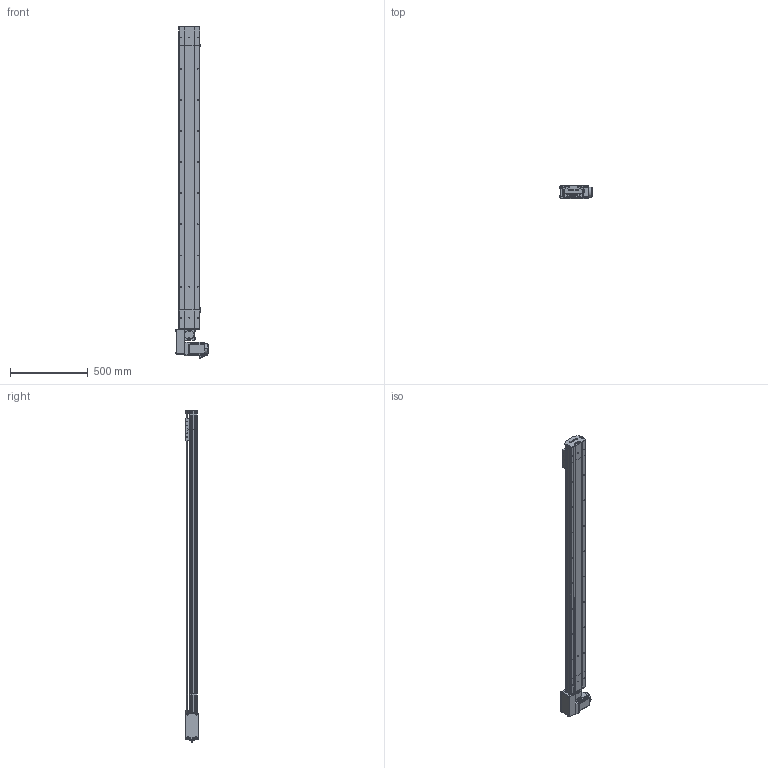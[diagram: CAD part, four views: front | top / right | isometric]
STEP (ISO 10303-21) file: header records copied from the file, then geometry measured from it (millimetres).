
FILE_DESCRIPTION (( 'STEP AP214' ), '1' );
FILE_NAME ('D14 TBH RH S1700.STEP', '2010-06-29T14:07:24', ( 'Conseil Régional Haute-Normandie' ), ( 'Conseil Régional Haute-Normandie' ), 'SwSTEP 2.0', 'SolidWorks 2010', '' );
FILE_SCHEMA (( 'AUTOMOTIVE_DESIGN' ));
Length unit declared in the file: millimetre
Products named in the file (39): vis M5 L16_Default; tete d''axe haut D14; Arbre+rail head D14; guide D14; plaque de  bout head D14 RH_Default; couvercle D14_Default; Arbre+rail tail D14; D14 TB H RH_Default; Couroie_Default; corpl tail D14_Default; poulie tail_Default; vis M5 L8 90°_Default; Tail D14B_Default; plaque de  bout tail D14_Default; corp head D14_Default; Conecteur2_Default; vis M5 L12_Default; Cache_Default; Cache arbre_Default; renvoi RH_Default; vis M5 L5_Default; avant 90BLDC100A-640; Plaque racord D14_Default; Conecteur_Default; couvercle D14 head_Default; chariot D14B_Default; Vis M5 L16-2_Default; codeur 90BLDC100-640; poulie head_Default; couroie 2_Default; Moteur motionking 90BLDC100A-640; corps 90BLDC100A-640; Cvis M5 L70_Default; Chariot D14; corpl 1700_Default; D14 couroie L1700_Default; couvercle D14 course L1700_Default; Rail + couroie D14 Course 1700 ; D14 TBH RH S1700
Assembly tree (68 placements, depth 4):
  D14 TBH RH S1700
    Tail D14B_Default
      vis M5 L12_Default  x4
      poulie tail_Default
      tete d''axe haut D14
      vis M5 L16_Default  x2
      vis M5 L8 90°_Default  x2
      corpl tail D14_Default
      plaque de  bout tail D14_Default
      Arbre+rail tail D14
      couvercle D14_Default
      Couroie_Default
    chariot D14B_Default
      vis M5 L12_Default  x4
      guide D14  x2
      Chariot D14
    D14 TB H RH_Default
      vis M5 L5_Default  x2
      vis M5 L12_Default  x12
      couvercle D14 head_Default
      Cvis M5 L70_Default  x4
      Vis M5 L16-2_Default  x4
      poulie head_Default
      corp head D14_Default
      Cache arbre_Default
      Cache_Default  x2
      plaque de  bout head D14 RH_Default
      couroie 2_Default
      Arbre+rail head D14
      renvoi RH_Default
      Plaque racord D14_Default
      Moteur motionking 90BLDC100A-640
        Conecteur_Default
        Conecteur2_Default
        avant 90BLDC100A-640
        corps 90BLDC100A-640
        codeur 90BLDC100-640
    D14 couroie L1700_Default
      Rail + couroie D14 Course 1700 
      couvercle D14 course L1700_Default
      corpl 1700_Default
Bounding box: 207.2 x 85.9 x 2132.45 mm (x, y, z)
Volume: 8215560 mm3; surface area: 2831835.5 mm2
Topology: 92 solids, 92 shells, 2661 faces, 6503 edges, 4194 vertices
Faces by surface type: plane 1597, cylinder 751, bspline 136, torus 89, cone 84, sphere 4
Entity records: 80108 total; most frequent: CARTESIAN_POINT 23697, ORIENTED_EDGE 9866, DIRECTION 9680, EDGE_CURVE 4933, LINE 3298, VECTOR 3298, VERTEX_POINT 3244, AXIS2_PLACEMENT_3D 3191
